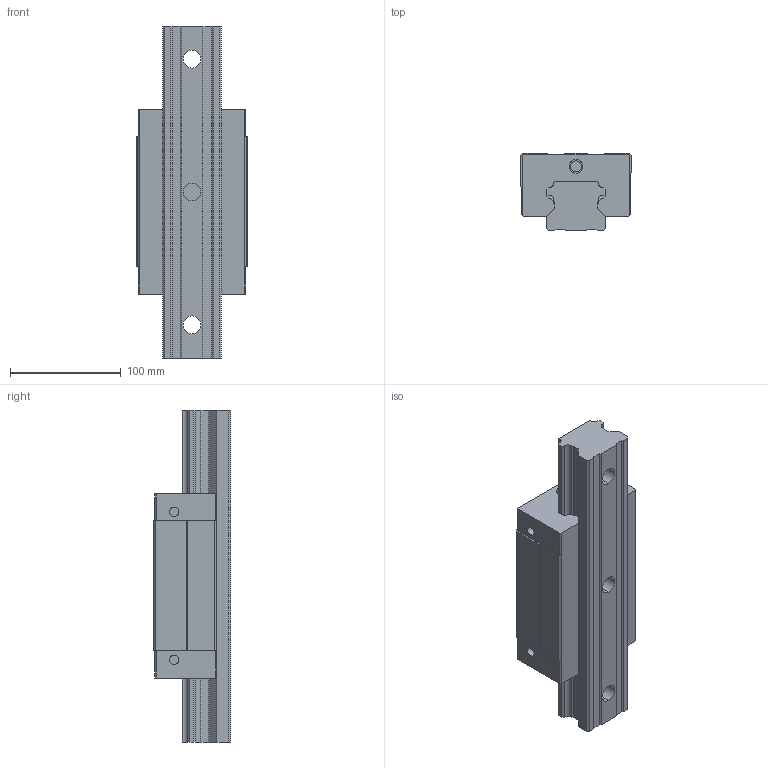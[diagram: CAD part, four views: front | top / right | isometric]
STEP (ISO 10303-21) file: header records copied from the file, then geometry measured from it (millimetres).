
FILE_DESCRIPTION((''),'2;1');
FILE_NAME('HGL55CA_ASM','2008-07-11T',('immo'),(''),'PRO/ENGINEER BY PARAMETRIC TECHNOLOGY CORPORATION, 2004360','PRO/ENGINEER BY PARAMETRIC TECHNOLOGY CORPORATION, 2004360','');
FILE_SCHEMA(('CONFIG_CONTROL_DESIGN'));
Length unit declared in the file: millimetre
Products named in the file (6): HG55_RAIL_3; MANIFOLD_SOLID_BREP_75125; HG55BLOCK_1_ASM_ASM; HG55_ASM_ASM_111_ASM_ASM; HG55C_ASM_ASM; HGL55CA_ASM
Assembly tree (5 placements, depth 5):
  HGL55CA_ASM
    HG55C_ASM_ASM
      HG55_ASM_ASM_111_ASM_ASM
        HG55_RAIL_3
        HG55BLOCK_1_ASM_ASM
          MANIFOLD_SOLID_BREP_75125
Bounding box: 100 x 70 x 300 mm (x, y, z)
Volume: 1249616.3 mm3; surface area: 148843.3 mm2
Topology: 2 solids, 2 shells, 199 faces, 544 edges, 364 vertices
Faces by surface type: plane 143, cylinder 56
Entity records: 6501 total; most frequent: CARTESIAN_POINT 1143, DIRECTION 1092, ORIENTED_EDGE 1088, EDGE_CURVE 544, VECTOR 412, LINE 412, VERTEX_POINT 364, AXIS2_PLACEMENT_3D 340
